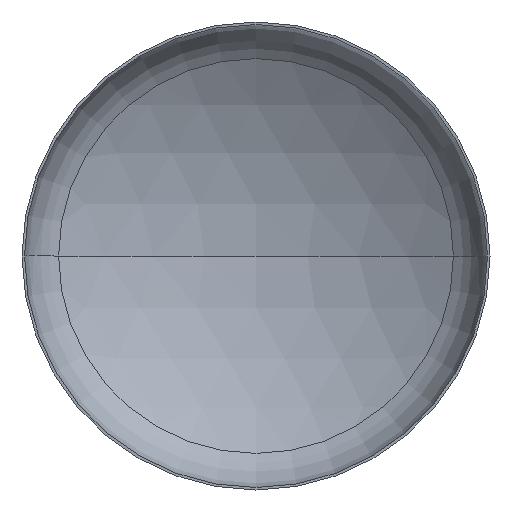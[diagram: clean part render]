
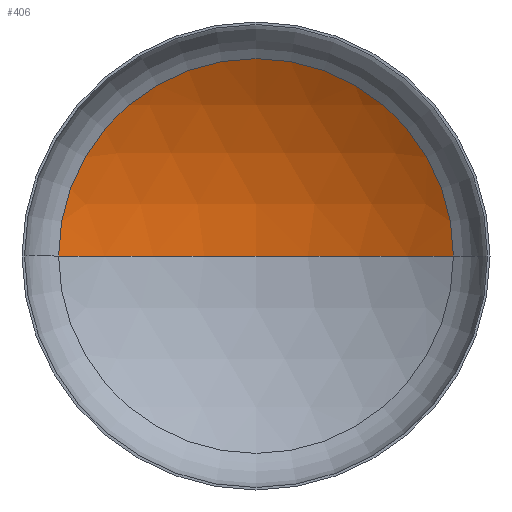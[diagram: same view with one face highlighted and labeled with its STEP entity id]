
A CAD part, front view. The second image highlights one B-rep face of the part: STEP entity #406.
In plain terms, the highlighted spherical face has radius 4000 mm.
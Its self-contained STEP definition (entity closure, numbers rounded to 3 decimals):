
#2 = DIRECTION ( 'NONE',  ( 0., 0., -1. ) ) ;
#14 = ORIENTED_EDGE ( 'NONE', *, *, #142, .T. ) ;
#16 = EDGE_LOOP ( 'NONE', ( #119, #14, #106 ) ) ;
#29 = VERTEX_POINT ( 'NONE', #280 ) ;
#47 = SPHERICAL_SURFACE ( 'NONE', #157, 4000. ) ;
#62 = AXIS2_PLACEMENT_3D ( 'NONE', #407, #121, #300 ) ;
#63 = VERTEX_POINT ( 'NONE', #288 ) ;
#66 = AXIS2_PLACEMENT_3D ( 'NONE', #236, #2, #386 ) ;
#69 = AXIS2_PLACEMENT_3D ( 'NONE', #281, #265, #408 ) ;
#106 = ORIENTED_EDGE ( 'NONE', *, *, #139, .T. ) ;
#119 = ORIENTED_EDGE ( 'NONE', *, *, #145, .F. ) ;
#121 = DIRECTION ( 'NONE',  ( 0., 0., 1. ) ) ;
#125 = VERTEX_POINT ( 'NONE', #211 ) ;
#139 = EDGE_CURVE ( 'NONE', #29, #63, #179, .T. ) ;
#142 = EDGE_CURVE ( 'NONE', #125, #29, #405, .T. ) ;
#145 = EDGE_CURVE ( 'NONE', #125, #63, #410, .T. ) ;
#149 = FACE_OUTER_BOUND ( 'NONE', #16, .T. ) ;
#157 = AXIS2_PLACEMENT_3D ( 'NONE', #268, #376, #375 ) ;
#179 = CIRCLE ( 'NONE', #69, 2108.978 ) ;
#211 = CARTESIAN_POINT ( 'NONE',  ( 0., 1340.425, 0. ) ) ;
#236 = CARTESIAN_POINT ( 'NONE',  ( 0., -2659.575, 0. ) ) ;
#265 = DIRECTION ( 'NONE',  ( 0., -1., 0. ) ) ;
#268 = CARTESIAN_POINT ( 'NONE',  ( 0., -2659.575, 0. ) ) ;
#280 = CARTESIAN_POINT ( 'NONE',  ( 2108.978, 739.279, 0. ) ) ;
#281 = CARTESIAN_POINT ( 'NONE',  ( 0., 739.279, 0. ) ) ;
#288 = CARTESIAN_POINT ( 'NONE',  ( -2108.978, 739.279, 0. ) ) ;
#300 = DIRECTION ( 'NONE',  ( 1., 0., 0. ) ) ;
#375 = DIRECTION ( 'NONE',  ( -1., 0., 0. ) ) ;
#376 = DIRECTION ( 'NONE',  ( 0., 0., -1. ) ) ;
#386 = DIRECTION ( 'NONE',  ( -1., 0., 0. ) ) ;
#405 = CIRCLE ( 'NONE', #66, 4000. ) ;
#406 = ADVANCED_FACE ( 'NONE', ( #149 ), #47, .F. ) ;
#407 = CARTESIAN_POINT ( 'NONE',  ( 0., -2659.575, 0. ) ) ;
#408 = DIRECTION ( 'NONE',  ( 1., 0., 0. ) ) ;
#410 = CIRCLE ( 'NONE', #62, 4000. ) ;
